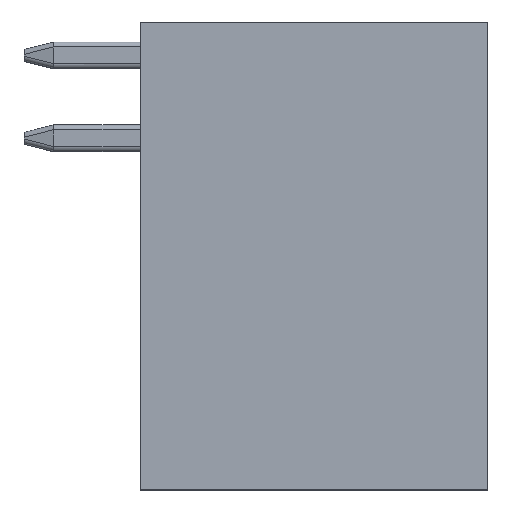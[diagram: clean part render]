
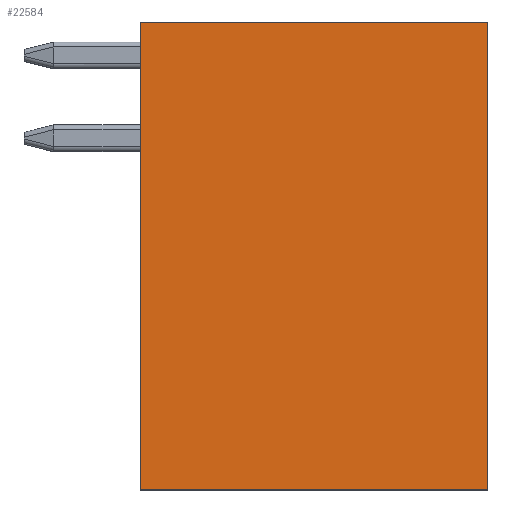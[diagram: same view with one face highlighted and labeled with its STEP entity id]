
A CAD part, top view. The second image highlights one B-rep face of the part: STEP entity #22584.
In plain terms, the highlighted planar face has unit normal (0, 0, 1).
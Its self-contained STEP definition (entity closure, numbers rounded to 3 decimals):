
#7719=DIRECTION('',(0.,1.,0.));
#7720=VECTOR('',#7719,14.1);
#7721=CARTESIAN_POINT('',(5.6,3.,0.7));
#7722=LINE('',#7721,#7720);
#7723=DIRECTION('',(1.,0.,0.));
#7724=VECTOR('',#7723,10.5);
#7725=CARTESIAN_POINT('',(-4.9,3.,0.7));
#7726=LINE('',#7725,#7724);
#7727=DIRECTION('',(0.,-1.,0.));
#7728=VECTOR('',#7727,14.1);
#7729=CARTESIAN_POINT('',(-4.9,17.1,0.7));
#7730=LINE('',#7729,#7728);
#7731=DIRECTION('',(-1.,0.,0.));
#7732=VECTOR('',#7731,10.5);
#7733=CARTESIAN_POINT('',(5.6,17.1,0.7));
#7734=LINE('',#7733,#7732);
#11041=CARTESIAN_POINT('',(-4.9,17.1,0.7));
#11042=VERTEX_POINT('',#11041);
#11043=CARTESIAN_POINT('',(-4.9,3.,0.7));
#11044=VERTEX_POINT('',#11043);
#11190=CARTESIAN_POINT('',(5.6,17.1,0.7));
#11191=VERTEX_POINT('',#11190);
#11474=CARTESIAN_POINT('',(5.6,3.,0.7));
#11475=VERTEX_POINT('',#11474);
#22573=CARTESIAN_POINT('',(5.6,3.,0.7));
#22574=DIRECTION('',(0.,0.,1.));
#22575=DIRECTION('',(-1.,0.,0.));
#22576=AXIS2_PLACEMENT_3D('',#22573,#22574,#22575);
#22577=PLANE('',#22576);
#22578=ORIENTED_EDGE('',*,*,#21125,.F.);
#22579=ORIENTED_EDGE('',*,*,#21984,.F.);
#22580=ORIENTED_EDGE('',*,*,#15451,.F.);
#22581=ORIENTED_EDGE('',*,*,#15064,.F.);
#22582=EDGE_LOOP('',(#22578,#22579,#22580,#22581));
#22583=FACE_OUTER_BOUND('',#22582,.F.);
#22584=ADVANCED_FACE('',(#22583),#22577,.T.);
#15064=EDGE_CURVE('',#11191,#11042,#7734,.T.);
#15451=EDGE_CURVE('',#11042,#11044,#7730,.T.);
#21125=EDGE_CURVE('',#11475,#11191,#7722,.T.);
#21984=EDGE_CURVE('',#11044,#11475,#7726,.T.);
